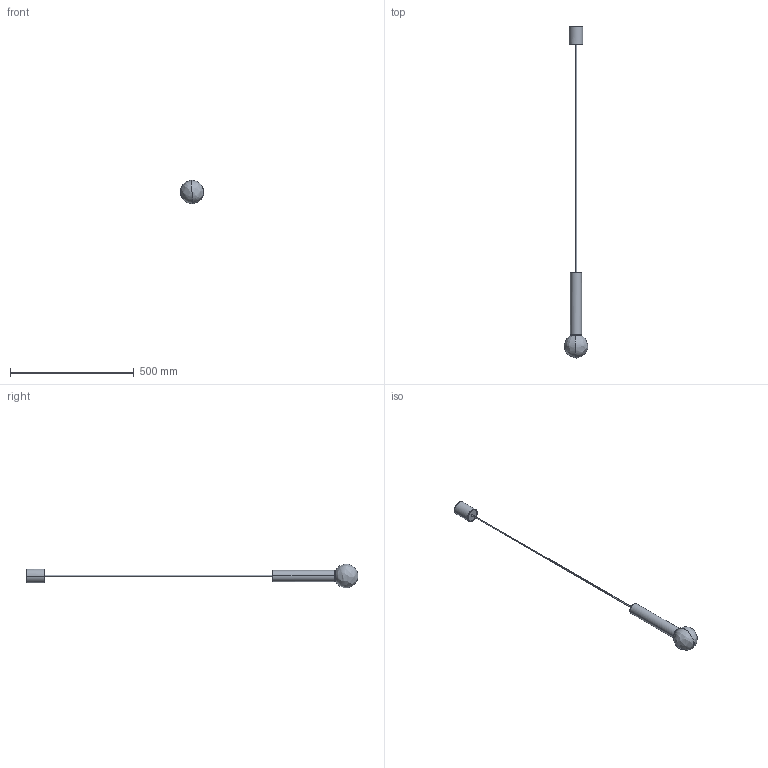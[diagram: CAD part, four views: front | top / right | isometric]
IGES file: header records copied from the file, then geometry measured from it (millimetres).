
Start section: SolidWorks IGES file using NURBS representation for surfaces
Global section: file name: Z:\Modele 3D_WWW\_KOLEKCJE_WWW\BATON\BATON-M-7852\BATON-M-7852.IGS; native system: SolidWorks 2021; preprocessor: SolidWorks 2021; author: gabriela.tworek; date: 210908.133516; units: millimetre
Bounding box: 94.68 x 1342.26 x 95.39 mm (x, y, z)
Surface area: 175738.1 mm2 (no closed solid volume)
Topology: 0 solids, 0 shells, 56 faces, 1312 edges, 1308 vertices
Faces by surface type: bspline 56
